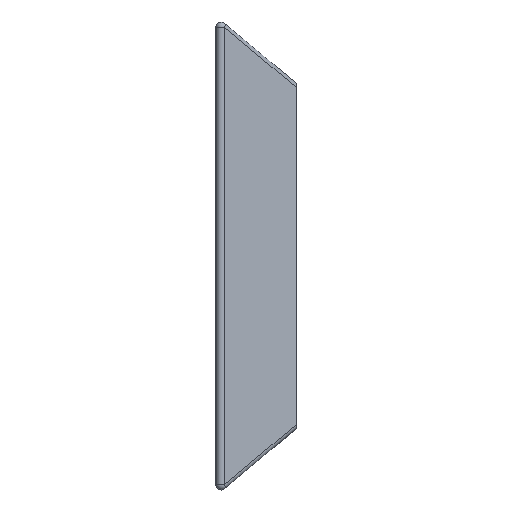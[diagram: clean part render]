
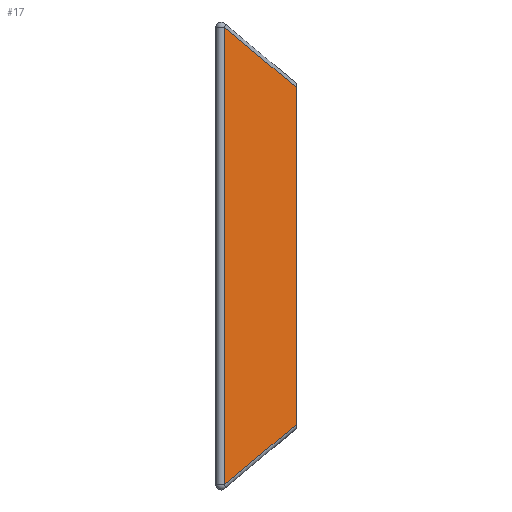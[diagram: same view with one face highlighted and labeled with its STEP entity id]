
A CAD part, left-side view. The second image highlights one B-rep face of the part: STEP entity #17.
In plain terms, the highlighted planar face has unit normal (-0.766, -0.643, 0).
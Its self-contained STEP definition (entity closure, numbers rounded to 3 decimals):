
#17 = ADVANCED_FACE('',(#18),#32,.F.);
#18 = FACE_BOUND('',#19,.T.);
#19 = EDGE_LOOP('',(#20,#55,#83,#111));
#20 = ORIENTED_EDGE('',*,*,#21,.T.);
#21 = EDGE_CURVE('',#22,#24,#26,.T.);
#22 = VERTEX_POINT('',#23);
#23 = CARTESIAN_POINT('',(-93.416,26.714,
    85.384));
#24 = VERTEX_POINT('',#25);
#25 = CARTESIAN_POINT('',(-93.416,26.714,
    -85.384));
#26 = SURFACE_CURVE('',#27,(#31,#43),.PCURVE_S1.);
#27 = LINE('',#28,#29);
#28 = CARTESIAN_POINT('',(-93.416,26.714,
    -89.673));
#29 = VECTOR('',#30,1.);
#30 = DIRECTION('',(0.,0.,-1.));
#31 = PCURVE('',#32,#37);
#32 = PLANE('',#33);
#33 = AXIS2_PLACEMENT_3D('',#34,#35,#36);
#34 = CARTESIAN_POINT('',(-71.,0.,64.5));
#35 = DIRECTION('',(0.766,0.643,0.));
#36 = DIRECTION('',(-0.643,0.766,0.));
#37 = DEFINITIONAL_REPRESENTATION('',(#38),#42);
#38 = LINE('',#39,#40);
#39 = CARTESIAN_POINT('',(34.873,-154.173));
#40 = VECTOR('',#41,1.);
#41 = DIRECTION('',(0.,-1.));
#42 = ( GEOMETRIC_REPRESENTATION_CONTEXT(2) 
PARAMETRIC_REPRESENTATION_CONTEXT() REPRESENTATION_CONTEXT('2D SPACE',''
  ) );
#43 = PCURVE('',#44,#49);
#44 = CYLINDRICAL_SURFACE('',#45,2.);
#45 = AXIS2_PLACEMENT_3D('',#46,#47,#48);
#46 = CARTESIAN_POINT('',(-91.884,28.,64.5));
#47 = DIRECTION('',(0.,0.,-1.));
#48 = DIRECTION('',(-1.,0.,0.));
#49 = DEFINITIONAL_REPRESENTATION('',(#50),#54);
#50 = LINE('',#51,#52);
#51 = CARTESIAN_POINT('',(-0.698,154.173));
#52 = VECTOR('',#53,1.);
#53 = DIRECTION('',(0.,1.));
#54 = ( GEOMETRIC_REPRESENTATION_CONTEXT(2) 
PARAMETRIC_REPRESENTATION_CONTEXT() REPRESENTATION_CONTEXT('2D SPACE',''
  ) );
#55 = ORIENTED_EDGE('',*,*,#56,.T.);
#56 = EDGE_CURVE('',#24,#57,#59,.T.);
#57 = VERTEX_POINT('',#58);
#58 = CARTESIAN_POINT('',(-71.,0.,-62.968));
#59 = SURFACE_CURVE('',#60,(#64,#71),.PCURVE_S1.);
#60 = LINE('',#61,#62);
#61 = CARTESIAN_POINT('',(-33.732,-44.415,-25.7
    ));
#62 = VECTOR('',#63,1.);
#63 = DIRECTION('',(0.541,-0.644,0.541));
#64 = PCURVE('',#32,#65);
#65 = DEFINITIONAL_REPRESENTATION('',(#66),#70);
#66 = LINE('',#67,#68);
#67 = CARTESIAN_POINT('',(-57.979,-90.2));
#68 = VECTOR('',#69,1.);
#69 = DIRECTION('',(-0.841,0.541));
#70 = ( GEOMETRIC_REPRESENTATION_CONTEXT(2) 
PARAMETRIC_REPRESENTATION_CONTEXT() REPRESENTATION_CONTEXT('2D SPACE',''
  ) );
#71 = PCURVE('',#72,#77);
#72 = CYLINDRICAL_SURFACE('',#73,2.);
#73 = AXIS2_PLACEMENT_3D('',#74,#75,#76);
#74 = CARTESIAN_POINT('',(-32.2,-43.129,
    -25.7));
#75 = DIRECTION('',(0.541,-0.644,0.541));
#76 = DIRECTION('',(0.,-0.643,-0.766)
  );
#77 = DEFINITIONAL_REPRESENTATION('',(#78),#82);
#78 = LINE('',#79,#80);
#79 = CARTESIAN_POINT('',(5.138,0.));
#80 = VECTOR('',#81,1.);
#81 = DIRECTION('',(0.,1.));
#82 = ( GEOMETRIC_REPRESENTATION_CONTEXT(2) 
PARAMETRIC_REPRESENTATION_CONTEXT() REPRESENTATION_CONTEXT('2D SPACE',''
  ) );
#83 = ORIENTED_EDGE('',*,*,#84,.F.);
#84 = EDGE_CURVE('',#85,#57,#87,.T.);
#85 = VERTEX_POINT('',#86);
#86 = CARTESIAN_POINT('',(-71.,0.,62.968));
#87 = SURFACE_CURVE('',#88,(#92,#99),.PCURVE_S1.);
#88 = LINE('',#89,#90);
#89 = CARTESIAN_POINT('',(-71.,0.,0.));
#90 = VECTOR('',#91,1.);
#91 = DIRECTION('',(0.,0.,-1.));
#92 = PCURVE('',#32,#93);
#93 = DEFINITIONAL_REPRESENTATION('',(#94),#98);
#94 = LINE('',#95,#96);
#95 = CARTESIAN_POINT('',(0.,-64.5));
#96 = VECTOR('',#97,1.);
#97 = DIRECTION('',(0.,-1.));
#98 = ( GEOMETRIC_REPRESENTATION_CONTEXT(2) 
PARAMETRIC_REPRESENTATION_CONTEXT() REPRESENTATION_CONTEXT('2D SPACE',''
  ) );
#99 = PCURVE('',#100,#105);
#100 = PLANE('',#101);
#101 = AXIS2_PLACEMENT_3D('',#102,#103,#104);
#102 = CARTESIAN_POINT('',(0.,0.,0.));
#103 = DIRECTION('',(0.,-1.,0.));
#104 = DIRECTION('',(0.,0.,-1.));
#105 = DEFINITIONAL_REPRESENTATION('',(#106),#110);
#106 = LINE('',#107,#108);
#107 = CARTESIAN_POINT('',(0.,-71.));
#108 = VECTOR('',#109,1.);
#109 = DIRECTION('',(1.,0.));
#110 = ( GEOMETRIC_REPRESENTATION_CONTEXT(2) 
PARAMETRIC_REPRESENTATION_CONTEXT() REPRESENTATION_CONTEXT('2D SPACE',''
  ) );
#111 = ORIENTED_EDGE('',*,*,#112,.T.);
#112 = EDGE_CURVE('',#85,#22,#113,.T.);
#113 = SURFACE_CURVE('',#114,(#118,#125),.PCURVE_S1.);
#114 = LINE('',#115,#116);
#115 = CARTESIAN_POINT('',(-71.448,0.534,
    63.416));
#116 = VECTOR('',#117,1.);
#117 = DIRECTION('',(-0.541,0.644,0.541));
#118 = PCURVE('',#32,#119);
#119 = DEFINITIONAL_REPRESENTATION('',(#120),#124);
#120 = LINE('',#121,#122);
#121 = CARTESIAN_POINT('',(0.697,-1.084));
#122 = VECTOR('',#123,1.);
#123 = DIRECTION('',(0.841,0.541));
#124 = ( GEOMETRIC_REPRESENTATION_CONTEXT(2) 
PARAMETRIC_REPRESENTATION_CONTEXT() REPRESENTATION_CONTEXT('2D SPACE',''
  ) );
#125 = PCURVE('',#126,#131);
#126 = CYLINDRICAL_SURFACE('',#127,2.);
#127 = AXIS2_PLACEMENT_3D('',#128,#129,#130);
#128 = CARTESIAN_POINT('',(-69.916,1.819,
    63.416));
#129 = DIRECTION('',(0.541,-0.644,-0.541));
#130 = DIRECTION('',(0.,0.643,-0.766)
  );
#131 = DEFINITIONAL_REPRESENTATION('',(#132),#136);
#132 = LINE('',#133,#134);
#133 = CARTESIAN_POINT('',(4.286,0.));
#134 = VECTOR('',#135,1.);
#135 = DIRECTION('',(0.,-1.));
#136 = ( GEOMETRIC_REPRESENTATION_CONTEXT(2) 
PARAMETRIC_REPRESENTATION_CONTEXT() REPRESENTATION_CONTEXT('2D SPACE',''
  ) );
